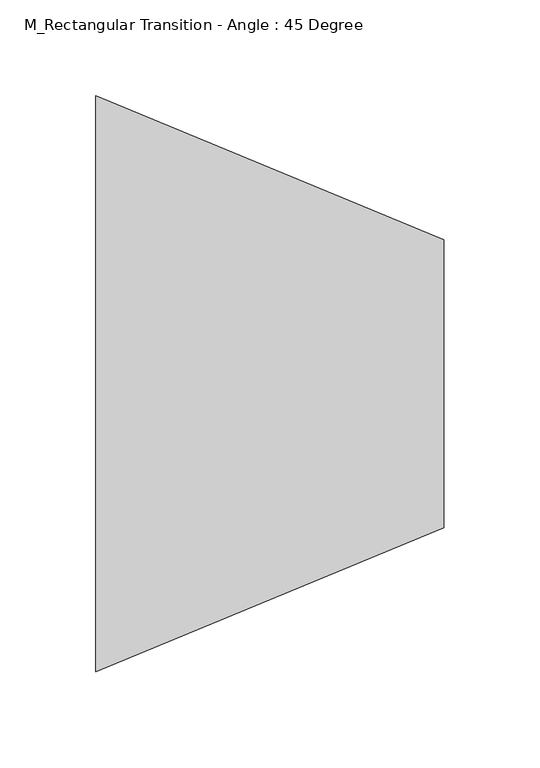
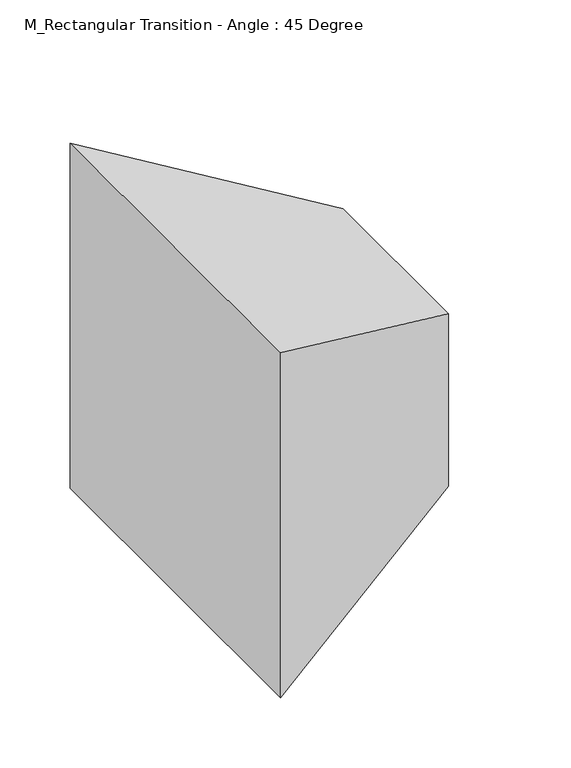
"""IFC4 building model written with IfcOpenShell, lengths in millimetres: duct fitting geometry, M_Rectangular Transition - Angle : 45 Degree."""

from ifc_helpers import new_model, si_unit, origin, place, context, project, spatial, faceted_brep, source, transform, mapped, element, save


def m_rectangular_transition_angle_45_degree_f6bc9f97(model_context):
    return source(origin(), model_context, "Body", "Brep", [
        faceted_brep([(181.0660172, -75.0, 75.0), (181.0660172, -75.0, -75.0), (181.0660172, 75.0, -75.0), (181.0660172, 75.0, 75.0), (0.0, -150.0, 150.0), (0.0, 150.0, 150.0), (0.0, 150.0, -150.0), (0.0, -150.0, -150.0)], [[[0, 1, 2, 3]], [[4, 5, 6, 7]], [[4, 7, 1, 0]], [[7, 6, 2, 1]], [[6, 5, 3, 2]], [[5, 4, 0, 3]]]),
        faceted_brep([(181.0660172, -75.0, 75.0), (181.0660172, -75.0, -75.0), (181.0660172, 75.0, -75.0), (181.0660172, 75.0, 75.0), (0.0, -150.0, 150.0), (0.0, 150.0, 150.0), (0.0, 150.0, -150.0), (0.0, -150.0, -150.0)], [[[0, 1, 2, 3]], [[4, 5, 6, 7]], [[4, 7, 1, 0]], [[7, 6, 2, 1]], [[6, 5, 3, 2]], [[5, 4, 0, 3]]]),
        faceted_brep([(181.0660172, -75.0, 75.0), (181.0660172, -75.0, -75.0), (181.0660172, 75.0, -75.0), (181.0660172, 75.0, 75.0), (0.0, -150.0, 150.0), (0.0, 150.0, 150.0), (0.0, 150.0, -150.0), (0.0, -150.0, -150.0)], [[[0, 1, 2, 3]], [[4, 5, 6, 7]], [[4, 7, 1, 0]], [[7, 6, 2, 1]], [[6, 5, 3, 2]], [[5, 4, 0, 3]]]),
    ])


if __name__ == "__main__":
    model = new_model("IFC4")
    model_context = context("Model", 3, world=origin())
    ifc_project = project(units=[si_unit("LENGTHUNIT", "METRE", prefix="MILLI")], contexts=[model_context])
    site = spatial("IfcSite", under=ifc_project)
    building = spatial("IfcBuilding", under=site)
    placement = place(None, origin())
    m_rectangular_transition_angle_45_degree_shape = m_rectangular_transition_angle_45_degree_f6bc9f97(model_context)
    element("IfcDuctFitting", 1, ObjectType="M_Rectangular Transition - Angle : 45 Degree", at=placement, inside=building, context=model_context, shape_type="MappedRepresentation", body=[
        mapped(m_rectangular_transition_angle_45_degree_shape, transform((0.0, 0.0, 0.0), x_axis=(1.0, 0.0, 0.0), y_axis=(0.0, 1.0, 0.0), z_axis=(0.0, 0.0, 1.0))),
    ])
    save(model, "model.ifc")
